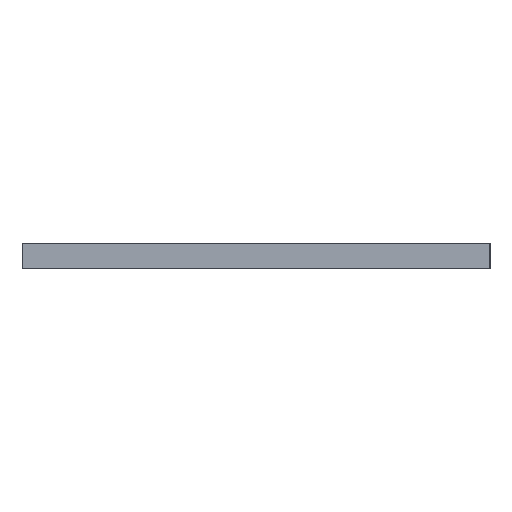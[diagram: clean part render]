
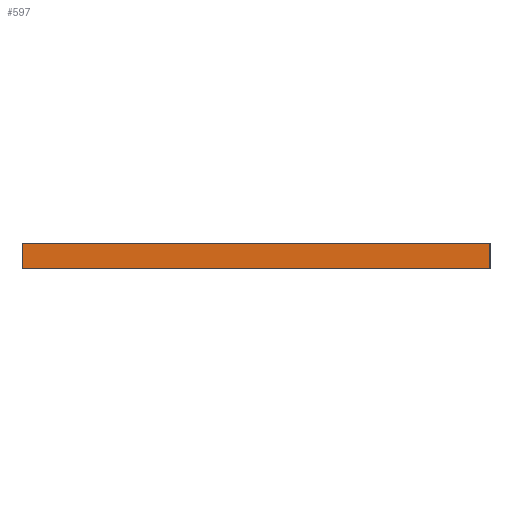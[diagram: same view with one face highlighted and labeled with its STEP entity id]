
A CAD part, left-side view. The second image highlights one B-rep face of the part: STEP entity #597.
In plain terms, the highlighted planar face has unit normal (-1, 0, 0).
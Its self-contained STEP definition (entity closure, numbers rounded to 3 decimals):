
#386 = EDGE_CURVE ( 'NONE', #387, #388, #1449, .T. ) ;
#387 = VERTEX_POINT ( 'NONE', #1445 ) ;
#388 = VERTEX_POINT ( 'NONE', #1444 ) ;
#393 = ORIENTED_EDGE ( 'NONE', *, *, #490, .T. ) ;
#394 = ORIENTED_EDGE ( 'NONE', *, *, #395, .F. ) ;
#395 = EDGE_CURVE ( 'NONE', #388, #492, #1443, .T. ) ;
#396 = ORIENTED_EDGE ( 'NONE', *, *, #386, .F. ) ;
#397 = ORIENTED_EDGE ( 'NONE', *, *, #398, .T. ) ;
#398 = EDGE_CURVE ( 'NONE', #387, #491, #1439, .T. ) ;
#490 = EDGE_CURVE ( 'NONE', #491, #492, #1809, .T. ) ;
#491 = VERTEX_POINT ( 'NONE', #1804 ) ;
#492 = VERTEX_POINT ( 'NONE', #1805 ) ;
#597 = ADVANCED_FACE ( 'NONE', ( #1917 ), #1916, .F. ) ;
#598 = EDGE_LOOP ( 'NONE', ( #393, #394, #396, #397 ) ) ;
#1436 = DIRECTION ( 'NONE',  ( 0., 0., -1. ) ) ;
#1437 = VECTOR ( 'NONE', #1436, 1000. ) ;
#1438 = CARTESIAN_POINT ( 'NONE',  ( -125., 72.5, 8. ) ) ;
#1439 = LINE ( 'NONE', #1438, #1437 ) ;
#1440 = DIRECTION ( 'NONE',  ( 0., 0., -1. ) ) ;
#1441 = VECTOR ( 'NONE', #1440, 1000. ) ;
#1442 = CARTESIAN_POINT ( 'NONE',  ( -125., -72.5, 8. ) ) ;
#1443 = LINE ( 'NONE', #1442, #1441 ) ;
#1444 = CARTESIAN_POINT ( 'NONE',  ( -125., -72.5, 8. ) ) ;
#1445 = CARTESIAN_POINT ( 'NONE',  ( -125., 72.5, 8. ) ) ;
#1446 = DIRECTION ( 'NONE',  ( 0., -1., 0. ) ) ;
#1447 = VECTOR ( 'NONE', #1446, 1000. ) ;
#1448 = CARTESIAN_POINT ( 'NONE',  ( -125., 72.5, 8. ) ) ;
#1449 = LINE ( 'NONE', #1448, #1447 ) ;
#1804 = CARTESIAN_POINT ( 'NONE',  ( -125., 72.5, 0. ) ) ;
#1805 = CARTESIAN_POINT ( 'NONE',  ( -125., -72.5, 0. ) ) ;
#1806 = DIRECTION ( 'NONE',  ( 0., -1., 0. ) ) ;
#1807 = VECTOR ( 'NONE', #1806, 1000. ) ;
#1808 = CARTESIAN_POINT ( 'NONE',  ( -125., 72.5, 0. ) ) ;
#1809 = LINE ( 'NONE', #1808, #1807 ) ;
#1912 = DIRECTION ( 'NONE',  ( 0., 0., -1. ) ) ;
#1913 = DIRECTION ( 'NONE',  ( 1., 0., 0. ) ) ;
#1914 = CARTESIAN_POINT ( 'NONE',  ( -125., 72.5, 8. ) ) ;
#1915 = AXIS2_PLACEMENT_3D ( 'NONE', #1914, #1913, #1912 ) ;
#1916 = PLANE ( 'NONE',  #1915 ) ;
#1917 = FACE_OUTER_BOUND ( 'NONE', #598, .T. ) ;
